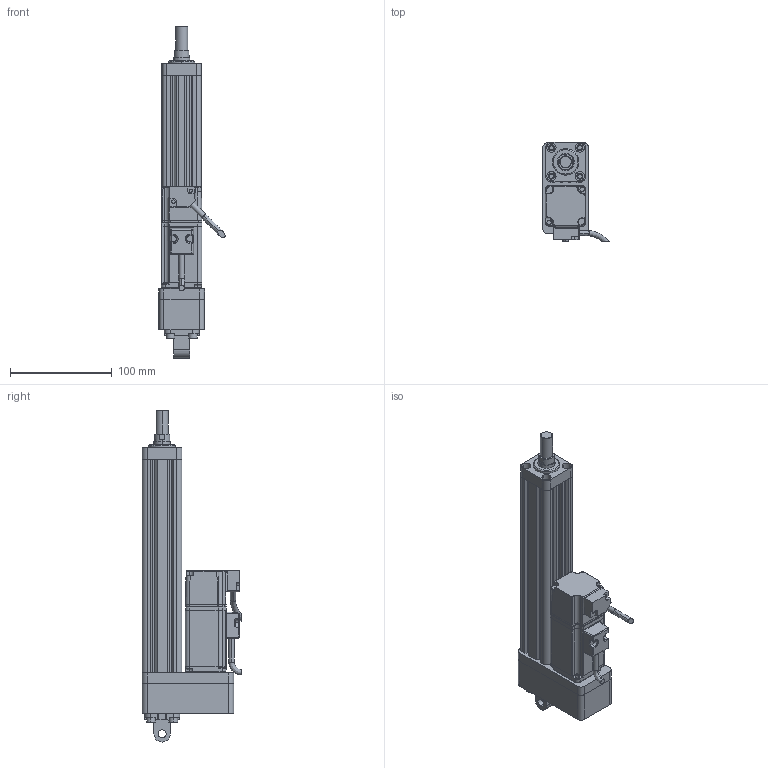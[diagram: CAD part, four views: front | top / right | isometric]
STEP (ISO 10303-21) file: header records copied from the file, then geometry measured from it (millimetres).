
FILE_DESCRIPTION (( 'STEP AP214' ), '1' );
FILE_NAME ('039-S150-D02-B-M5-C1-2.STEP', '2021-03-02T05:06:39', ( '' ), ( '' ), 'SwSTEP 2.0', 'SolidWorks 2018', '' );
FILE_SCHEMA (( 'AUTOMOTIVE_DESIGN' ));
Length unit declared in the file: millimetre
Products named in the file (8): CMC039-LJB; CMC039-GT; 039-S150-D02-B-M5-C1-2; F-ACE20CA_ACE_; CMC039-HXT; CMC039-DT; ECMA-CX0401ES-40框號系列機種-100W低慣量系列; CMC039-FL
Assembly tree (7 placements, depth 2):
  039-S150-D02-B-M5-C1-2
    CMC039-GT
    CMC039-LJB
    CMC039-FL
    CMC039-DT
    ECMA-CX0401ES-40框號系列機種-100W低慣量系列
    CMC039-HXT
    F-ACE20CA_ACE_
Bounding box: 65.34 x 97.89 x 327 mm (x, y, z)
Volume: 472347 mm3; surface area: 146955.7 mm2
Topology: 7 solids, 15 shells, 765 faces, 1996 edges, 1251 vertices
Faces by surface type: cylinder 321, plane 303, bspline 92, cone 49
Entity records: 29810 total; most frequent: CARTESIAN_POINT 11648, ORIENTED_EDGE 3926, DIRECTION 3331, EDGE_CURVE 1963, VERTEX_POINT 1251, AXIS2_PLACEMENT_3D 1181, LINE 969, VECTOR 969
